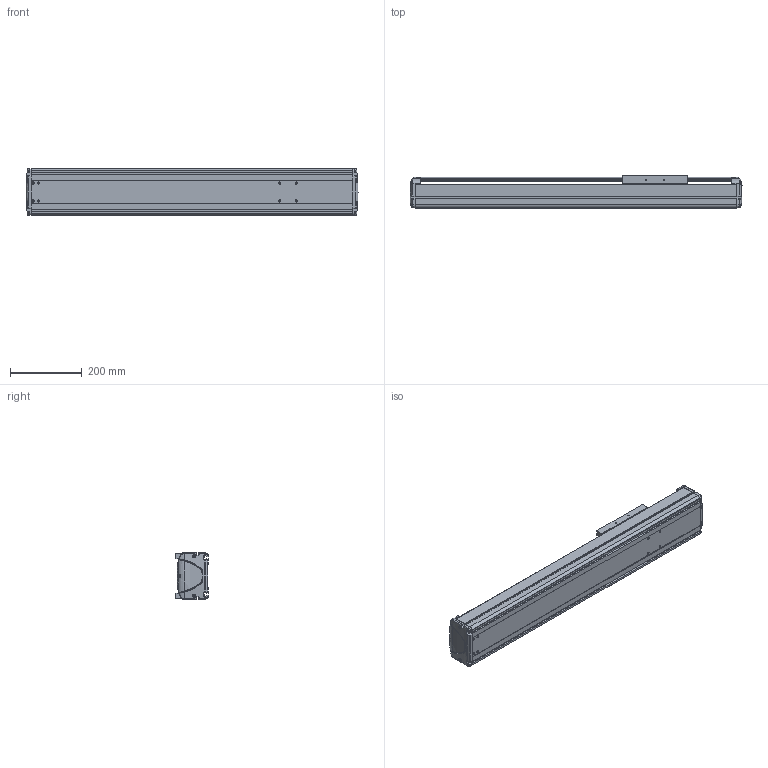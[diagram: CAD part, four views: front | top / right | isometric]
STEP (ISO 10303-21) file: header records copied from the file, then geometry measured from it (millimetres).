
FILE_DESCRIPTION((''),'2;1');
FILE_NAME('BE30E-ST-L_B-55_IGS_PRT','2017-06-17T',(' '),(''),'PRO/ENGINEER BY PARAMETRIC TECHNOLOGY CORPORATION, 2015030','PRO/ENGINEER BY PARAMETRIC TECHNOLOGY CORPORATION, 2015030','');
FILE_SCHEMA(('CONFIG_CONTROL_DESIGN'));
Length unit declared in the file: millimetre
Products named in the file (1): BE30E-ST-L_B-55_IGS_PRT
Bounding box: 925 x 89.8 x 130 mm (x, y, z)
Volume: 2912104.7 mm3; surface area: 1151781.1 mm2
Topology: 3 solids, 84 shells, 1338 faces, 3600 edges, 2356 vertices
Faces by surface type: cylinder 595, plane 588, bspline 55, torus 46, cone 30, sphere 24
Entity records: 45009 total; most frequent: CARTESIAN_POINT 11333, DIRECTION 6953, ORIENTED_EDGE 6823, EDGE_CURVE 3580, AXIS2_PLACEMENT_3D 2510, VERTEX_POINT 2356, VECTOR 1933, LINE 1933
